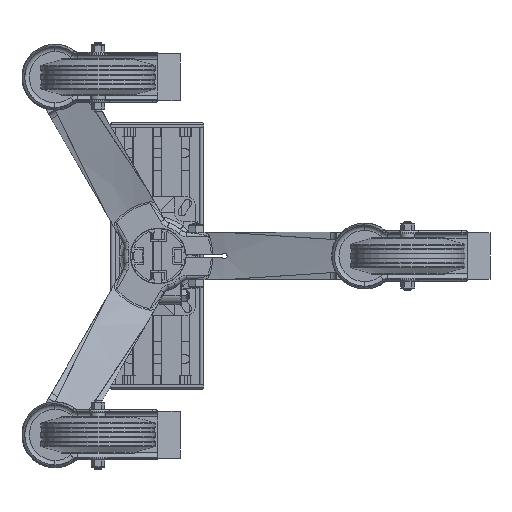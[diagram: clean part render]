
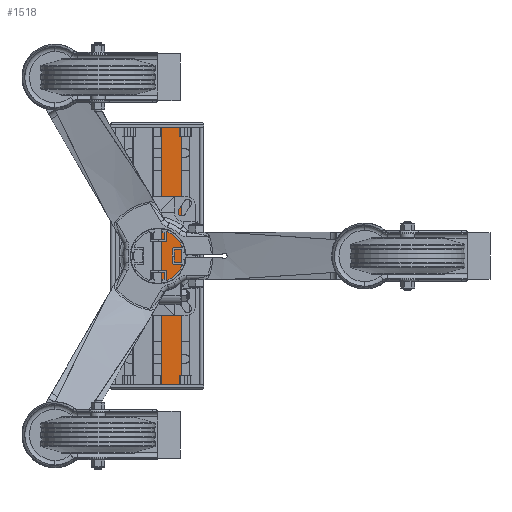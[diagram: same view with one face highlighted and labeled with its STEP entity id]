
A CAD part, front view. The second image highlights one B-rep face of the part: STEP entity #1518.
In plain terms, the highlighted planar face has unit normal (0, -1, 0).
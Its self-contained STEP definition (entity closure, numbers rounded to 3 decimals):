
#1518 = ADVANCED_FACE ( 'NONE', ( #16956 ), #16938, .F. ) ;
#7008 = EDGE_LOOP ( 'NONE', ( #8023, #8084, #8061, #8123 ) ) ;
#8008 = EDGE_CURVE ( 'NONE', #15794, #15793, #66573, .T. ) ;
#8022 = EDGE_CURVE ( 'NONE', #15791, #15748, #66482, .T. ) ;
#8023 = ORIENTED_EDGE ( 'NONE', *, *, #14540, .T. ) ;
#8061 = ORIENTED_EDGE ( 'NONE', *, *, #8065, .F. ) ;
#8065 = EDGE_CURVE ( 'NONE', #15794, #15791, #66618, .T. ) ;
#8084 = ORIENTED_EDGE ( 'NONE', *, *, #8022, .F. ) ;
#8123 = ORIENTED_EDGE ( 'NONE', *, *, #8008, .T. ) ;
#14540 = EDGE_CURVE ( 'NONE', #15793, #15748, #73751, .T. ) ;
#15748 = VERTEX_POINT ( 'NONE', #74281 ) ;
#15791 = VERTEX_POINT ( 'NONE', #74481 ) ;
#15793 = VERTEX_POINT ( 'NONE', #74384 ) ;
#15794 = VERTEX_POINT ( 'NONE', #74383 ) ;
#16928 = DIRECTION ( 'NONE',  ( -1., 0., 0. ) ) ;
#16930 = DIRECTION ( 'NONE',  ( 0., 1., 0. ) ) ;
#16932 = CARTESIAN_POINT ( 'NONE',  ( -399.536, 323.017, 415.021 ) ) ;
#16936 = AXIS2_PLACEMENT_3D ( 'NONE', #16932, #16930, #16928 ) ;
#16938 = PLANE ( 'NONE',  #16936 ) ;
#16956 = FACE_OUTER_BOUND ( 'NONE', #7008, .T. ) ;
#66482 = LINE ( 'NONE', #66557, #66556 ) ;
#66555 = DIRECTION ( 'NONE',  ( 0., 0., -1. ) ) ;
#66556 = VECTOR ( 'NONE', #66555, 1000. ) ;
#66557 = CARTESIAN_POINT ( 'NONE',  ( -399.536, 323.017, 415.021 ) ) ;
#66570 = DIRECTION ( 'NONE',  ( 0., 0., -1. ) ) ;
#66571 = VECTOR ( 'NONE', #66570, 1000. ) ;
#66572 = CARTESIAN_POINT ( 'NONE',  ( -421.036, 323.017, 415.021 ) ) ;
#66573 = LINE ( 'NONE', #66572, #66571 ) ;
#66615 = DIRECTION ( 'NONE',  ( 1., 0., 0. ) ) ;
#66616 = VECTOR ( 'NONE', #66615, 1000. ) ;
#66617 = CARTESIAN_POINT ( 'NONE',  ( -399.536, 323.017, 415.021 ) ) ;
#66618 = LINE ( 'NONE', #66617, #66616 ) ;
#73748 = DIRECTION ( 'NONE',  ( 1., 0., 0. ) ) ;
#73749 = VECTOR ( 'NONE', #73748, 1000. ) ;
#73750 = CARTESIAN_POINT ( 'NONE',  ( -399.536, 323.017, 134.021 ) ) ;
#73751 = LINE ( 'NONE', #73750, #73749 ) ;
#74281 = CARTESIAN_POINT ( 'NONE',  ( -399.536, 323.017, 134.021 ) ) ;
#74383 = CARTESIAN_POINT ( 'NONE',  ( -421.036, 323.017, 415.021 ) ) ;
#74384 = CARTESIAN_POINT ( 'NONE',  ( -421.036, 323.017, 134.021 ) ) ;
#74481 = CARTESIAN_POINT ( 'NONE',  ( -399.536, 323.017, 415.021 ) ) ;
